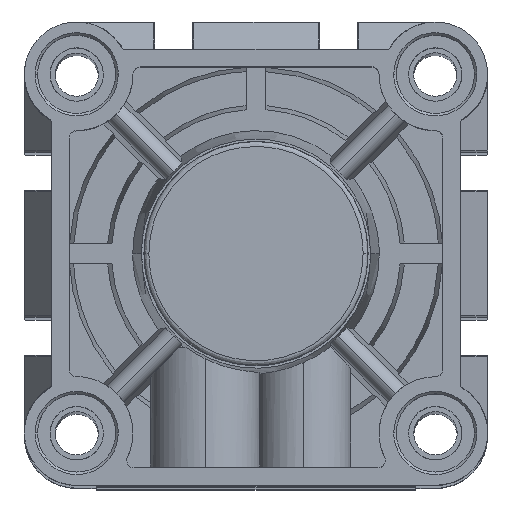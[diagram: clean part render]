
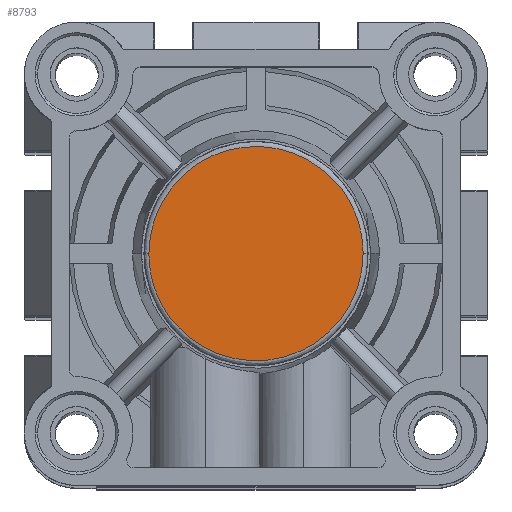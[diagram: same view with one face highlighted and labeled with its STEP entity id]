
A CAD part, top view. The second image highlights one B-rep face of the part: STEP entity #8793.
In plain terms, the highlighted planar face has unit normal (0, 0, 1).
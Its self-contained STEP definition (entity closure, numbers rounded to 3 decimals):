
#1039 =( BOUNDED_CURVE ( )  B_SPLINE_CURVE ( 3, ( #23282, #9113, #27299, #6000 ),
 .UNSPECIFIED., .F., .F. ) 
 B_SPLINE_CURVE_WITH_KNOTS ( ( 4, 4 ),
 ( 0., 1. ),
 .UNSPECIFIED. ) 
 CURVE ( )  GEOMETRIC_REPRESENTATION_ITEM ( )  RATIONAL_B_SPLINE_CURVE ( ( 0.957, 0.319, 0.319, 0.957 ) ) 
 REPRESENTATION_ITEM ( '' )  );
#1508 = ORIENTED_EDGE ( 'NONE', *, *, #21722, .F. ) ;
#3362 =( BOUNDED_CURVE ( )  B_SPLINE_CURVE ( 3, ( #43154, #21505, #25531, #4218 ),
 .UNSPECIFIED., .F., .F. ) 
 B_SPLINE_CURVE_WITH_KNOTS ( ( 4, 4 ),
 ( 0., 1. ),
 .UNSPECIFIED. ) 
 CURVE ( )  GEOMETRIC_REPRESENTATION_ITEM ( )  RATIONAL_B_SPLINE_CURVE ( ( 0.957, 0.319, 0.319, 0.957 ) ) 
 REPRESENTATION_ITEM ( '' )  );
#4218 = CARTESIAN_POINT ( 'NONE',  ( 62.5, 41., 40. ) ) ;
#6000 = CARTESIAN_POINT ( 'NONE',  ( 19.5, 41., 40. ) ) ;
#8293 = FACE_OUTER_BOUND ( 'NONE', #28769, .T. ) ;
#8793 = ADVANCED_FACE ( 'NONE', ( #8293 ), #42384, .T. ) ;
#9113 = CARTESIAN_POINT ( 'NONE',  ( 62.5, -2., 40. ) ) ;
#11017 = DIRECTION ( 'NONE',  ( 0., 0., 1. ) ) ;
#16100 = CARTESIAN_POINT ( 'NONE',  ( 62.5, 41., 40. ) ) ;
#21505 = CARTESIAN_POINT ( 'NONE',  ( 19.5, 84., 40. ) ) ;
#21722 = EDGE_CURVE ( 'NONE', #25959, #36681, #3362, .T. ) ;
#23282 = CARTESIAN_POINT ( 'NONE',  ( 62.5, 41., 40. ) ) ;
#25531 = CARTESIAN_POINT ( 'NONE',  ( 62.5, 84., 40. ) ) ;
#25672 = EDGE_CURVE ( 'NONE', #36681, #25959, #1039, .T. ) ;
#25959 = VERTEX_POINT ( 'NONE', #37011 ) ;
#27299 = CARTESIAN_POINT ( 'NONE',  ( 19.5, -2., 40. ) ) ;
#28769 = EDGE_LOOP ( 'NONE', ( #1508, #40634 ) ) ;
#32314 = CARTESIAN_POINT ( 'NONE',  ( 19.242, 19.242, 40. ) ) ;
#35855 = DIRECTION ( 'NONE',  ( 1., 0., 0. ) ) ;
#36681 = VERTEX_POINT ( 'NONE', #16100 ) ;
#37011 = CARTESIAN_POINT ( 'NONE',  ( 19.5, 41., 40. ) ) ;
#40634 = ORIENTED_EDGE ( 'NONE', *, *, #25672, .F. ) ;
#42384 = PLANE ( 'NONE',  #42564 ) ;
#42564 = AXIS2_PLACEMENT_3D ( 'NONE', #32314, #11017, #35855 ) ;
#43154 = CARTESIAN_POINT ( 'NONE',  ( 19.5, 41., 40. ) ) ;
